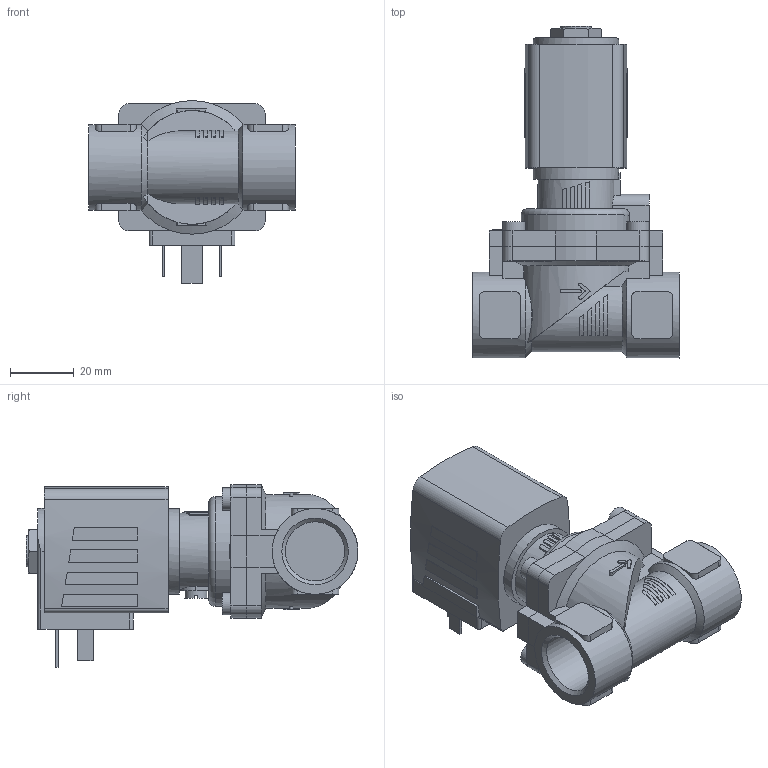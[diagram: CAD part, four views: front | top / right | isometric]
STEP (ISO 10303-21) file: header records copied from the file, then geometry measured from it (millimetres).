
FILE_DESCRIPTION(/* description */ ('STEP AP214'),/* implementation_level */ '2;1');
FILE_NAME(/* name */ '6281-328869-2_2-Way_Solenoid_Valve__Servo-assisted__General_Purpose',/* time_stamp */ '2024-05-27T11:04:14+02:00',/* author */ ('License CC BY-ND 4.0'),/* organization */ ('CADENAS'),/* preprocessor_version */ 'ST-DEVELOPER v19.3',/* originating_system */ 'PARTsolutions',/* authorisation */ ' ');
FILE_SCHEMA (('AUTOMOTIVE_DESIGN {1 0 10303 214 3 1 1}'));
Length unit declared in the file: millimetre
Products named in the file (4): 6281-328869-2/2-Way Solenoid Valve, Servo-assisted, General Purpose; 5281ev132MS2/2-Wege-Magnetventil mit Servomembran-Deckel 42HA15 ; 6213-13G1/2MS-Gehaeuse-lang; AC10ex-5NA38-Plan-Coil
Assembly tree (3 placements, depth 2):
  6281-328869-2/2-Way Solenoid Valve, Servo-assisted, General Purpose
    5281ev132MS2/2-Wege-Magnetventil mit Servomembran-Deckel 42HA15 
    6213-13G1/2MS-Gehaeuse-lang
    AC10ex-5NA38-Plan-Coil
Bounding box: 65 x 104.5 x 57.5 mm (x, y, z)
Volume: 119004.4 mm3; surface area: 29290.4 mm2
Topology: 3 solids, 3 shells, 347 faces, 886 edges, 580 vertices
Faces by surface type: plane 241, cylinder 92, cone 13, torus 1
Full cylindrical faces by diameter (mm): 2.013 x1, 7 x5, 9.74 x1, 18.631 x2, 27 x3
Entity records: 11829 total; most frequent: CARTESIAN_POINT 2050, DIRECTION 1760, ORIENTED_EDGE 1726, EDGE_CURVE 863, AXIS2_PLACEMENT_3D 615, VERTEX_POINT 573, LINE 530, VECTOR 530
